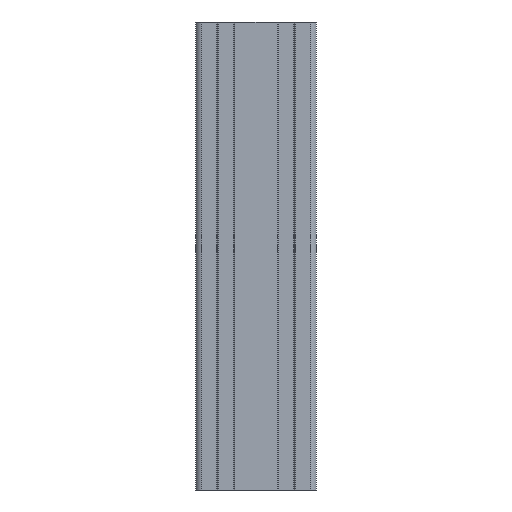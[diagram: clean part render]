
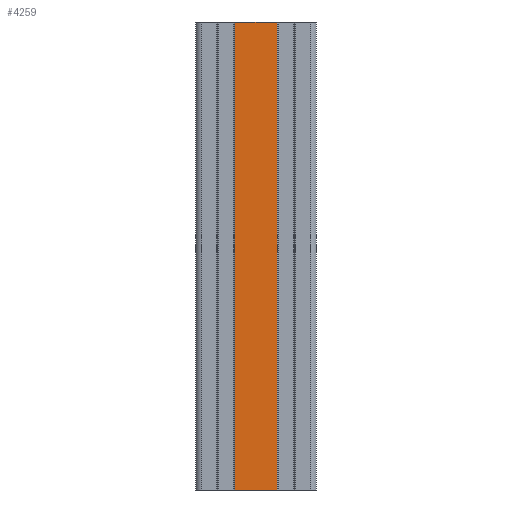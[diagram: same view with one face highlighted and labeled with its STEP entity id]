
A CAD part, front view. The second image highlights one B-rep face of the part: STEP entity #4259.
In plain terms, the highlighted planar face has unit normal (0, -1, 0).
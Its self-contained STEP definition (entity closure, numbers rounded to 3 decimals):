
#4201=CARTESIAN_POINT('',(14.,-20.,110.));
#4202=VERTEX_POINT('',#4201);
#4210=CARTESIAN_POINT('',(14.,-20.,-200.0));
#4211=VERTEX_POINT('',#4210);
#4212=CARTESIAN_POINT('',(14.,-20.,-200.0));
#4213=DIRECTION('',(0.0,0.0,1.0));
#4214=VECTOR('',#4213,310.);
#4215=LINE('',#4212,#4214);
#4216=EDGE_CURVE('',#4211,#4202,#4215,.T.);
#4229=CARTESIAN_POINT('',(0.,-20.,-200.0));
#4230=DIRECTION('',(0.0,-1.0,0.0));
#4231=DIRECTION('',(0.0,0.0,-1.0));
#4232=AXIS2_PLACEMENT_3D('',#4229,#4230,#4231);
#4233=PLANE('',#4232);
#4234=CARTESIAN_POINT('',(-14.,-20.,110.));
#4235=VERTEX_POINT('',#4234);
#4236=CARTESIAN_POINT('',(14.,-20.,110.0));
#4237=DIRECTION('',(-1.0,0.0,0.0));
#4238=VECTOR('',#4237,28.);
#4239=LINE('',#4236,#4238);
#4240=EDGE_CURVE('',#4202,#4235,#4239,.T.);
#4241=ORIENTED_EDGE('',*,*,#4240,.T.);
#4242=CARTESIAN_POINT('',(-14.,-20.,-200.0));
#4243=VERTEX_POINT('',#4242);
#4244=CARTESIAN_POINT('',(-14.,-20.,-200.0));
#4245=DIRECTION('',(0.0,0.0,1.0));
#4246=VECTOR('',#4245,310.);
#4247=LINE('',#4244,#4246);
#4248=EDGE_CURVE('',#4243,#4235,#4247,.T.);
#4249=ORIENTED_EDGE('',*,*,#4248,.F.);
#4250=CARTESIAN_POINT('',(14.,-20.,-200.0));
#4251=DIRECTION('',(-1.0,0.0,0.0));
#4252=VECTOR('',#4251,28.);
#4253=LINE('',#4250,#4252);
#4254=EDGE_CURVE('',#4211,#4243,#4253,.T.);
#4255=ORIENTED_EDGE('',*,*,#4254,.F.);
#4256=ORIENTED_EDGE('',*,*,#4216,.T.);
#4257=EDGE_LOOP('',(#4241,#4249,#4255,#4256));
#4258=FACE_OUTER_BOUND('',#4257,.T.);
#4259=ADVANCED_FACE('',(#4258),#4233,.T.);
